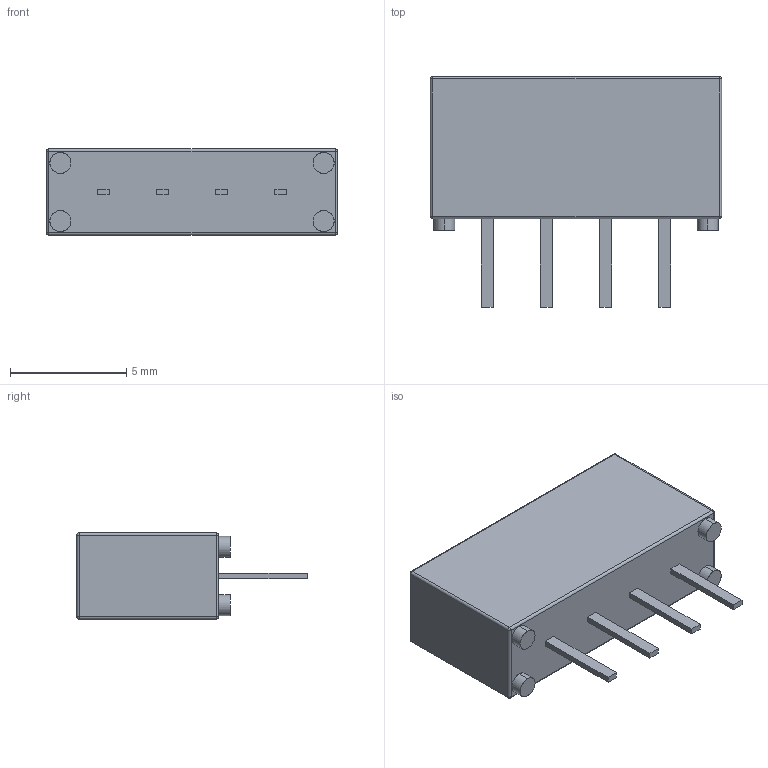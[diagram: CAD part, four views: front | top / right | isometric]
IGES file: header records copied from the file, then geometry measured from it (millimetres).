
Start section: SolidWorks IGES file using analytic representation for surfaces
Global section: file name: T:\Relays in Solidworks\Batch 1\113-1-A.IGS; native system: SolidWorks 2009; preprocessor: SolidWorks 2009; author: alex.leming; date: 100629.120203; units: millimetre
Bounding box: 12.5 x 9.9 x 3.7 mm (x, y, z)
Surface area: 315 mm2 (no closed solid volume)
Topology: 0 solids, 0 shells, 278 faces, 2064 edges, 2056 vertices
Faces by surface type: bspline 248, revolution 30
